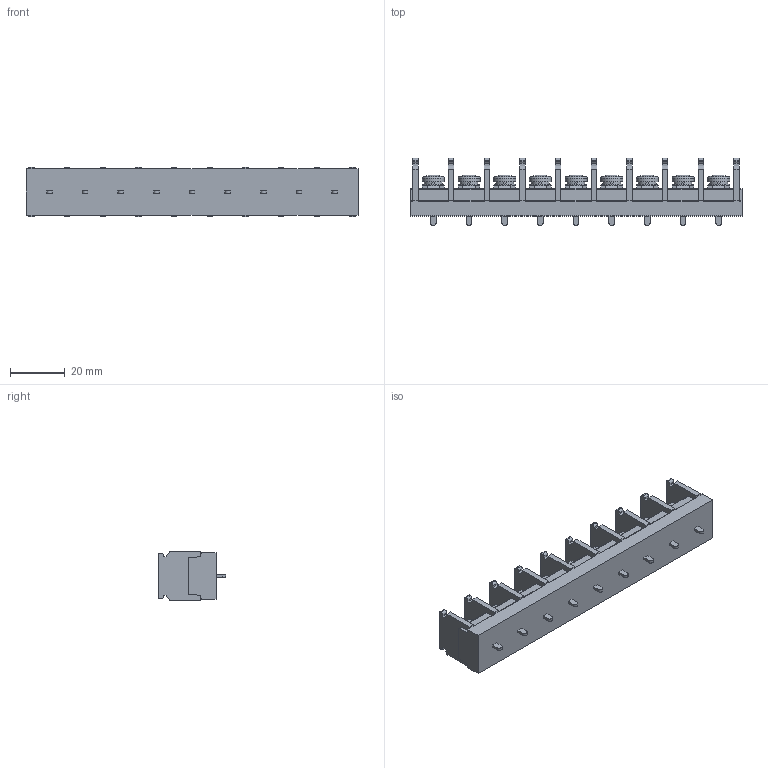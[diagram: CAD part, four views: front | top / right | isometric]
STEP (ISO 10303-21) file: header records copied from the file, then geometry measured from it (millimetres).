
FILE_DESCRIPTION(/* description */ ('Alibre Inc.'),/* implementation_level */ '2;1');
FILE_NAME(/* name */ 'export0',/* time_stamp */ '2016-08-02T19:15:01+09:00',/* author */ (''),/* organization */ (''),/* preprocessor_version */ 'ST-DEVELOPER v14',/* originating_system */ 'Alibre',/* authorisation */ '');
FILE_SCHEMA (('CONFIG_CONTROL_DESIGN'));
Length unit declared in the file: centimetre
Products named in the file (1): ID_1
Bounding box: 121 x 24.5 x 18 mm (x, y, z)
Volume: 24902.8 mm3; surface area: 13235.5 mm2
Topology: 1 solids, 26 shells, 1151 faces, 3057 edges, 2014 vertices
Faces by surface type: plane 828, cylinder 156, bspline 104, cone 45, sphere 9, torus 9
Full cylindrical faces by diameter (mm): 4 x9, 6.5 x9, 7.7 x9, 8 x9
Entity records: 34056 total; most frequent: CARTESIAN_POINT 7229, ORIENTED_EDGE 5970, DIRECTION 4420, EDGE_CURVE 2985, VECTOR 2076, LINE 2076, VERTEX_POINT 1987, AXIS2_PLACEMENT_3D 1558
